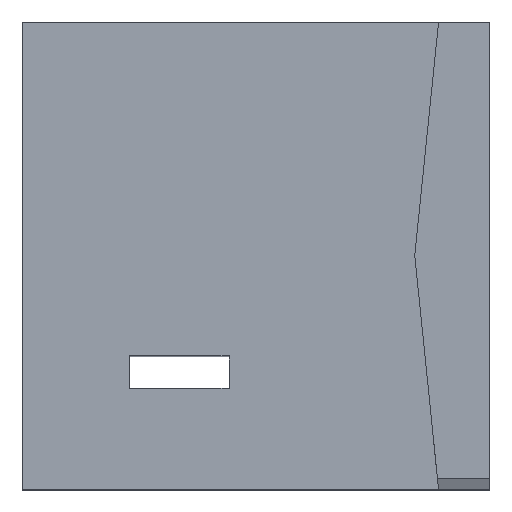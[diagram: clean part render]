
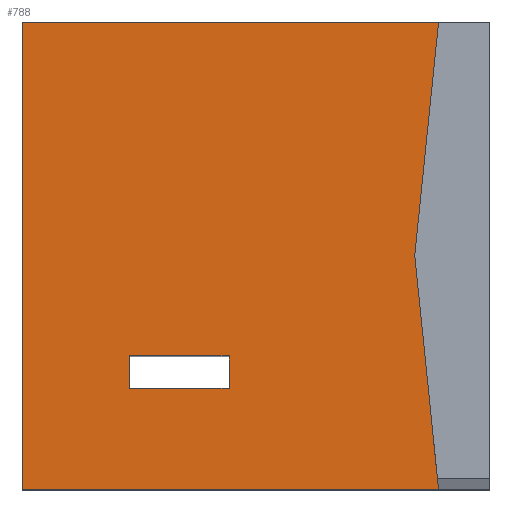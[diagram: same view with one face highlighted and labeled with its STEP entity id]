
A CAD part, top view. The second image highlights one B-rep face of the part: STEP entity #788.
In plain terms, the highlighted planar face has unit normal (0, 0, 1).
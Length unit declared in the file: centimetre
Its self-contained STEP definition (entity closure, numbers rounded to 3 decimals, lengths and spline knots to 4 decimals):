
#3 = CARTESIAN_POINT ( 'NONE',  ( 442.3224, 285.1836, 1000. ) ) ;
#5 = CARTESIAN_POINT ( 'NONE',  ( 890.7325, 0., 1000. ) ) ;
#11 = LINE ( 'NONE', #641, #82 ) ;
#15 = CARTESIAN_POINT ( 'NONE',  ( 839.7449, 500., 1000. ) ) ;
#17 = LINE ( 'NONE', #343, #792 ) ;
#24 = ORIENTED_EDGE ( 'NONE', *, *, #314, .T. ) ;
#27 = VECTOR ( 'NONE', #605, 100. ) ;
#51 = EDGE_CURVE ( 'NONE', #796, #708, #177, .T. ) ;
#53 = LINE ( 'NONE', #362, #27 ) ;
#55 = LINE ( 'NONE', #181, #113 ) ;
#82 = VECTOR ( 'NONE', #385, 100. ) ;
#105 = ORIENTED_EDGE ( 'NONE', *, *, #223, .T. ) ;
#106 = EDGE_CURVE ( 'NONE', #340, #150, #55, .T. ) ;
#113 = VECTOR ( 'NONE', #757, 100. ) ;
#150 = VERTEX_POINT ( 'NONE', #749 ) ;
#152 = LINE ( 'NONE', #402, #710 ) ;
#177 = LINE ( 'NONE', #682, #659 ) ;
#181 = CARTESIAN_POINT ( 'NONE',  ( 228.9297, 215.58, 1000. ) ) ;
#188 = PLANE ( 'NONE',  #599 ) ;
#190 = CARTESIAN_POINT ( 'NONE',  ( 0., 0., 1000. ) ) ;
#195 = ORIENTED_EDGE ( 'NONE', *, *, #722, .T. ) ;
#197 = VERTEX_POINT ( 'NONE', #611 ) ;
#205 = CARTESIAN_POINT ( 'NONE',  ( 228.9297, 215.58, 1000. ) ) ;
#206 = ORIENTED_EDGE ( 'NONE', *, *, #527, .T. ) ;
#210 = DIRECTION ( 'NONE',  ( -1., 0., 0. ) ) ;
#223 = EDGE_CURVE ( 'NONE', #711, #771, #53, .T. ) ;
#230 = ORIENTED_EDGE ( 'NONE', *, *, #51, .F. ) ;
#233 = VECTOR ( 'NONE', #496, 100. ) ;
#247 = LINE ( 'NONE', #439, #233 ) ;
#264 = FACE_OUTER_BOUND ( 'NONE', #400, .T. ) ;
#270 = EDGE_LOOP ( 'NONE', ( #765, #206, #721, #24 ) ) ;
#314 = EDGE_CURVE ( 'NONE', #761, #340, #452, .T. ) ;
#321 = CARTESIAN_POINT ( 'NONE',  ( 442.3224, 215.58, 1000. ) ) ;
#340 = VERTEX_POINT ( 'NONE', #205 ) ;
#343 = CARTESIAN_POINT ( 'NONE',  ( 442.3224, 215.58, 1000. ) ) ;
#362 = CARTESIAN_POINT ( 'NONE',  ( 0., 1000., 1000. ) ) ;
#382 = CARTESIAN_POINT ( 'NONE',  ( 228.9297, 215.58, 1000. ) ) ;
#383 = ORIENTED_EDGE ( 'NONE', *, *, #779, .F. ) ;
#385 = DIRECTION ( 'NONE',  ( 0., -1., 0. ) ) ;
#388 = DIRECTION ( 'NONE',  ( 0., 0., 1. ) ) ;
#397 = CARTESIAN_POINT ( 'NONE',  ( 890.7325, 1000., 1000. ) ) ;
#400 = EDGE_LOOP ( 'NONE', ( #230, #383, #105, #195, #658 ) ) ;
#402 = CARTESIAN_POINT ( 'NONE',  ( 890.7325, 1000., 1000. ) ) ;
#439 = CARTESIAN_POINT ( 'NONE',  ( 228.9297, 285.1836, 1000. ) ) ;
#452 = LINE ( 'NONE', #382, #756 ) ;
#496 = DIRECTION ( 'NONE',  ( 1., 0., 0. ) ) ;
#505 = CARTESIAN_POINT ( 'NONE',  ( 0., 0., 1000. ) ) ;
#527 = EDGE_CURVE ( 'NONE', #150, #794, #247, .T. ) ;
#578 = DIRECTION ( 'NONE',  ( 0., -1., 0. ) ) ;
#581 = EDGE_CURVE ( 'NONE', #197, #708, #750, .T. ) ;
#599 = AXIS2_PLACEMENT_3D ( 'NONE', #505, #388, #698 ) ;
#605 = DIRECTION ( 'NONE',  ( -1., 0., 0. ) ) ;
#611 = CARTESIAN_POINT ( 'NONE',  ( 0., 0., 1000. ) ) ;
#621 = FACE_BOUND ( 'NONE', #270, .T. ) ;
#627 = EDGE_CURVE ( 'NONE', #794, #761, #17, .T. ) ;
#641 = CARTESIAN_POINT ( 'NONE',  ( 0., 1000., 1000. ) ) ;
#648 = DIRECTION ( 'NONE',  ( -0.101, -0.995, 0. ) ) ;
#658 = ORIENTED_EDGE ( 'NONE', *, *, #581, .T. ) ;
#659 = VECTOR ( 'NONE', #814, 100. ) ;
#682 = CARTESIAN_POINT ( 'NONE',  ( 839.7449, 500., 1000. ) ) ;
#687 = DIRECTION ( 'NONE',  ( 1., 0., 0. ) ) ;
#698 = DIRECTION ( 'NONE',  ( 1., 0., 0. ) ) ;
#708 = VERTEX_POINT ( 'NONE', #5 ) ;
#710 = VECTOR ( 'NONE', #648, 100. ) ;
#711 = VERTEX_POINT ( 'NONE', #397 ) ;
#713 = CARTESIAN_POINT ( 'NONE',  ( 0., 1000., 1000. ) ) ;
#721 = ORIENTED_EDGE ( 'NONE', *, *, #627, .T. ) ;
#722 = EDGE_CURVE ( 'NONE', #771, #197, #11, .T. ) ;
#749 = CARTESIAN_POINT ( 'NONE',  ( 228.9297, 285.1836, 1000. ) ) ;
#750 = LINE ( 'NONE', #190, #777 ) ;
#756 = VECTOR ( 'NONE', #210, 100. ) ;
#757 = DIRECTION ( 'NONE',  ( 0., 1., 0. ) ) ;
#761 = VERTEX_POINT ( 'NONE', #321 ) ;
#765 = ORIENTED_EDGE ( 'NONE', *, *, #106, .T. ) ;
#771 = VERTEX_POINT ( 'NONE', #713 ) ;
#777 = VECTOR ( 'NONE', #687, 100. ) ;
#779 = EDGE_CURVE ( 'NONE', #711, #796, #152, .T. ) ;
#788 = ADVANCED_FACE ( 'NONE', ( #621, #264 ), #188, .T. ) ;
#792 = VECTOR ( 'NONE', #578, 100. ) ;
#794 = VERTEX_POINT ( 'NONE', #3 ) ;
#796 = VERTEX_POINT ( 'NONE', #15 ) ;
#814 = DIRECTION ( 'NONE',  ( 0.101, -0.995, 0. ) ) ;
